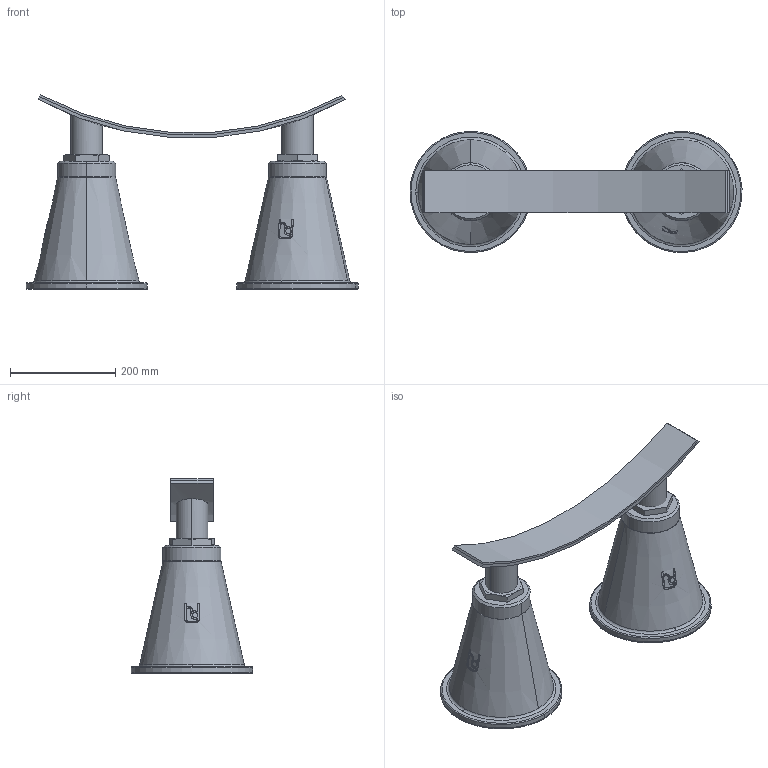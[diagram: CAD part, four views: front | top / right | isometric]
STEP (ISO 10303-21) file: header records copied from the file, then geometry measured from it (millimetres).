
FILE_DESCRIPTION(('STEP AP214'),'1');
FILE_NAME('RSRFA-DUO_DN1200.stp','2018-06-25T11:17:14',(' '),(' '),'Spatial InterOp 3D',' ',' ');
FILE_SCHEMA(('automotive_design'));
Length unit declared in the file: millimetre
Products named in the file (10): 1; 2; 3; 4; 5; 6; 7; 8; 9; 10
Bounding box: 629.86 x 230.08 x 368.67 mm (x, y, z)
Volume: 11679743.7 mm3; surface area: 921255.9 mm2
Topology: 10 solids, 13 shells, 207 faces, 492 edges, 318 vertices
Faces by surface type: plane 84, cylinder 75, cone 40, torus 8
Entity records: 9103 total; most frequent: CARTESIAN_POINT 2463, DIRECTION 1016, ORIENTED_EDGE 984, EDGE_CURVE 492, AXIS2_PLACEMENT_3D 399, VERTEX_POINT 318, EDGE_LOOP 224, LINE 218
